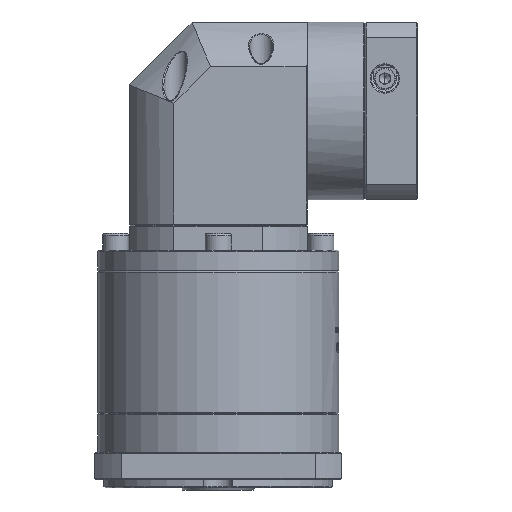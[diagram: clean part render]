
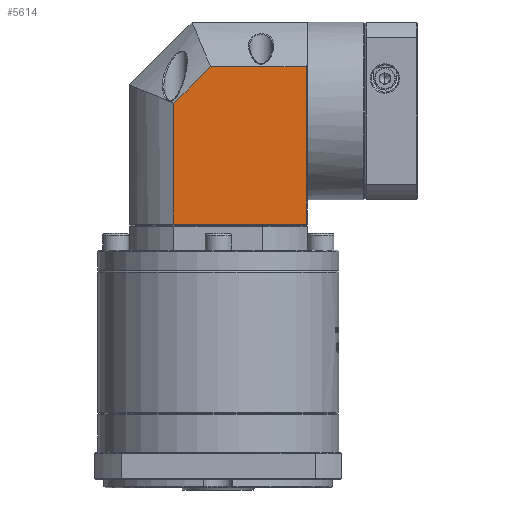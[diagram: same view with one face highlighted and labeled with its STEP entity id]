
A CAD part, front view. The second image highlights one B-rep face of the part: STEP entity #5614.
In plain terms, the highlighted planar face has unit normal (0, -1, 0).
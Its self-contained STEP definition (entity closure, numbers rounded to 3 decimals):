
#997 = DIRECTION ( 'NONE',  ( 0.707, 0., 0.707 ) ) ;
#3612 = CARTESIAN_POINT ( 'NONE',  ( 20.138, 97.28, 36.207 ) ) ;
#4799 = VERTEX_POINT ( 'NONE', #15806 ) ;
#5614 = ADVANCED_FACE ( 'NONE', ( #19554 ), #17655, .F. ) ;
#6118 = DIRECTION ( 'NONE',  ( -1., 0., 0. ) ) ;
#15806 = CARTESIAN_POINT ( 'NONE',  ( 2.607, 97.28, -39.006 ) ) ;
#17655 = PLANE ( 'NONE',  #149860 ) ;
#19554 = FACE_OUTER_BOUND ( 'NONE', #70209, .T. ) ;
#24215 = EDGE_CURVE ( 'NONE', #4799, #94349, #104962, .T. ) ;
#25021 = VECTOR ( 'NONE', #997, 1000. ) ;
#36103 = LINE ( 'NONE', #168888, #71113 ) ;
#37702 = LINE ( 'NONE', #64025, #124250 ) ;
#56501 = EDGE_CURVE ( 'NONE', #94349, #57168, #68311, .T. ) ;
#57168 = VERTEX_POINT ( 'NONE', #3612 ) ;
#58331 = CARTESIAN_POINT ( 'NONE',  ( 65.82, 97.28, 36.207 ) ) ;
#58364 = ORIENTED_EDGE ( 'NONE', *, *, #70120, .T. ) ;
#60379 = VERTEX_POINT ( 'NONE', #143516 ) ;
#64025 = CARTESIAN_POINT ( 'NONE',  ( 65.82, 97.28, 57.494 ) ) ;
#68311 = LINE ( 'NONE', #132089, #25021 ) ;
#70120 = EDGE_CURVE ( 'NONE', #4799, #60379, #36103, .T. ) ;
#70209 = EDGE_LOOP ( 'NONE', ( #58364, #92271, #120372, #86206, #124951 ) ) ;
#71113 = VECTOR ( 'NONE', #159126, 1000. ) ;
#83613 = VERTEX_POINT ( 'NONE', #58331 ) ;
#83852 = DIRECTION ( 'NONE',  ( 0., 1., 0. ) ) ;
#86206 = ORIENTED_EDGE ( 'NONE', *, *, #56501, .F. ) ;
#92271 = ORIENTED_EDGE ( 'NONE', *, *, #129774, .F. ) ;
#94349 = VERTEX_POINT ( 'NONE', #152992 ) ;
#99180 = CARTESIAN_POINT ( 'NONE',  ( 2.607, 97.28, 57.494 ) ) ;
#102040 = DIRECTION ( 'NONE',  ( 0., 0., 1. ) ) ;
#102858 = VECTOR ( 'NONE', #102040, 1000. ) ;
#104150 = LINE ( 'NONE', #152748, #130898 ) ;
#104962 = LINE ( 'NONE', #99180, #102858 ) ;
#111365 = CARTESIAN_POINT ( 'NONE',  ( 66.32, 97.28, 57.494 ) ) ;
#112452 = DIRECTION ( 'NONE',  ( 1., 0., 0. ) ) ;
#120372 = ORIENTED_EDGE ( 'NONE', *, *, #159433, .F. ) ;
#124250 = VECTOR ( 'NONE', #156018, 1000. ) ;
#124951 = ORIENTED_EDGE ( 'NONE', *, *, #24215, .F. ) ;
#129774 = EDGE_CURVE ( 'NONE', #83613, #60379, #37702, .T. ) ;
#130898 = VECTOR ( 'NONE', #112452, 1000. ) ;
#132089 = CARTESIAN_POINT ( 'NONE',  ( 2.607, 97.28, 18.676 ) ) ;
#143516 = CARTESIAN_POINT ( 'NONE',  ( 65.82, 97.28, -39.006 ) ) ;
#149860 = AXIS2_PLACEMENT_3D ( 'NONE', #111365, #83852, #6118 ) ;
#152748 = CARTESIAN_POINT ( 'NONE',  ( 66.32, 97.28, 36.207 ) ) ;
#152992 = CARTESIAN_POINT ( 'NONE',  ( 2.607, 97.28, 18.676 ) ) ;
#156018 = DIRECTION ( 'NONE',  ( 0., 0., -1. ) ) ;
#159126 = DIRECTION ( 'NONE',  ( 1., 0., 0. ) ) ;
#159433 = EDGE_CURVE ( 'NONE', #57168, #83613, #104150, .T. ) ;
#168888 = CARTESIAN_POINT ( 'NONE',  ( 66.32, 97.28, -39.006 ) ) ;
